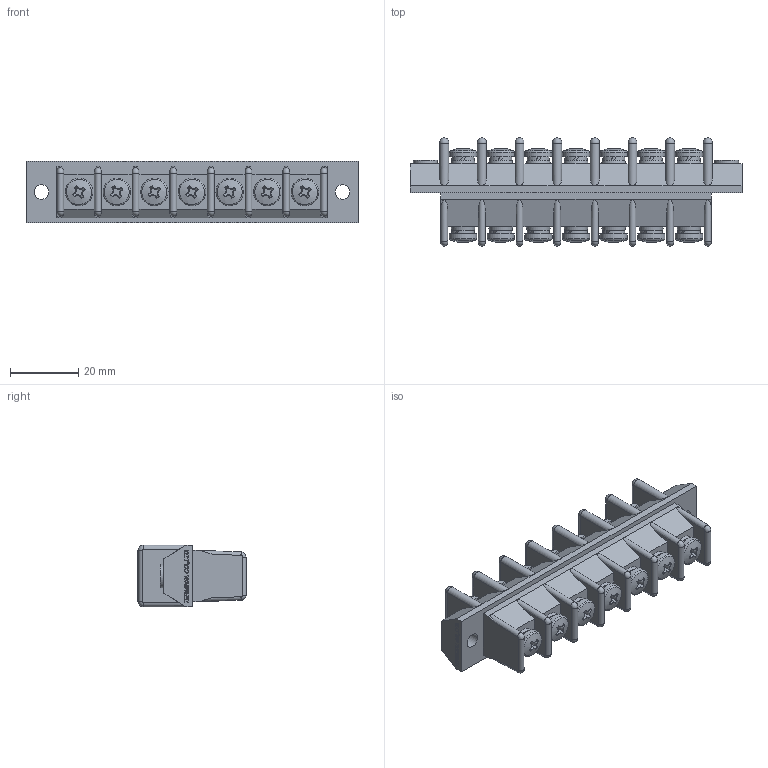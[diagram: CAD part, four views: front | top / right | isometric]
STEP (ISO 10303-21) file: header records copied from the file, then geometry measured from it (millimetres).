
FILE_DESCRIPTION(/* description */ ('Alibre Inc.'),/* implementation_level */ '2;1');
FILE_NAME(/* name */ 'export0',/* time_stamp */ '2016-01-16T17:49:00+09:00',/* author */ (''),/* organization */ (''),/* preprocessor_version */ 'ST-DEVELOPER v14',/* originating_system */ 'Alibre',/* authorisation */ '');
FILE_SCHEMA (('CONFIG_CONTROL_DESIGN'));
Length unit declared in the file: centimetre
Products named in the file (1): ID_1
Bounding box: 97 x 31.57 x 18 mm (x, y, z)
Volume: 28298.2 mm3; surface area: 13673.2 mm2
Topology: 1 solids, 8 shells, 956 faces, 2472 edges, 1631 vertices
Faces by surface type: plane 607, bspline 104, cylinder 101, cone 84, torus 46, sphere 14
Full cylindrical faces by diameter (mm): 4 x7, 4.3 x2, 6.5 x14, 7 x2, 8 x14
Entity records: 28460 total; most frequent: CARTESIAN_POINT 6328, ORIENTED_EDGE 4792, DIRECTION 3844, EDGE_CURVE 2396, VERTEX_POINT 1622, AXIS2_PLACEMENT_3D 1560, VECTOR 1338, LINE 1338
